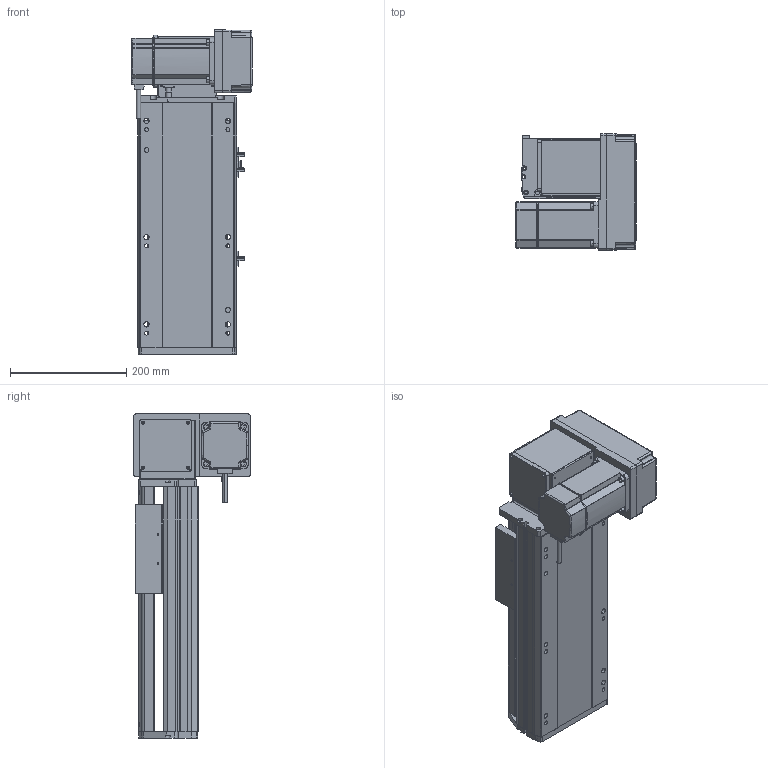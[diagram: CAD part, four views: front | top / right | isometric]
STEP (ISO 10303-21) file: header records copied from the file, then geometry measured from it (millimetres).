
FILE_DESCRIPTION (( 'STEP AP214' ), '1' );
FILE_NAME ('RTB17S-XX-150-RM-M75-C4.STEP', '2025-12-12T01:59:40', ( '' ), ( '' ), 'SwSTEP 2.0', 'SolidWorks 2018', '' );
FILE_SCHEMA (( 'AUTOMOTIVE_DESIGN' ));
Length unit declared in the file: millimetre
Products named in the file (15): EE672^RTB17S-XX-XX-RM-M75-C4; RTB17S-賑釱^RTB17S-XX-XX-RM-M75-C4; 750W萇儂^RTB17S-XX-XX-RM-M75-C4; RTB17S-L-004-賑釱^RTB17S-賑釱_RTB17S-XX-XX-RM-M75-C4; RTB22S-GY-008-M75--萇儂啣^RTB17S-RM-々湍釱蚾饜-750W_RTB17S-XX-XX-RM-M75-C4; RTB17S-RM-々湍釱蚾饜-750W^RTB17S-XX-XX-RM-M75-C4; RTH13-BL-012覜茼え俋离^RTB17S-賑釱_RTB17S-XX-XX-RM-M75-C4; RTB17-R-011菁釱^RTB17S-XX-XX-RM-M75-C4; RTB17S-L-001-耜醱啣^RTB17S-XX-XX-RM-M75-C4; RTB17S-L-014-T20-P75--々湍釱^RTB17S-RM-々湍釱蚾饜-750W_RTB17S-XX-XX-RM-M75-C4; RTB17S-L-007奻裔^RTB17S-XX-XX-RM-M75-C4; RTB22S-GY-018P^RTB17S-RM-々湍釱蚾饜-750W_RTB17S-XX-XX-RM-M75-C4; RTB22S-GY-005P^RTB17S-RM-々湍釱蚾饜-750W_RTB17S-XX-XX-RM-M75-C4; RTB17S-XX-150-RM-M75-C4; RTB22S-GY-017P^RTB17S-RM-々湍釱蚾饜-750W_RTB17S-XX-XX-RM-M75-C4
Assembly tree (17 placements, depth 3):
  RTB17S-XX-150-RM-M75-C4
    RTB17-R-011菁釱^RTB17S-XX-XX-RM-M75-C4
    EE672^RTB17S-XX-XX-RM-M75-C4  x3
    RTB17S-L-001-耜醱啣^RTB17S-XX-XX-RM-M75-C4
    RTB17S-賑釱^RTB17S-XX-XX-RM-M75-C4
      RTB17S-L-004-賑釱^RTB17S-賑釱_RTB17S-XX-XX-RM-M75-C4
      RTH13-BL-012覜茼え俋离^RTB17S-賑釱_RTB17S-XX-XX-RM-M75-C4
    RTB17S-L-007奻裔^RTB17S-XX-XX-RM-M75-C4
    750W萇儂^RTB17S-XX-XX-RM-M75-C4
    RTB17S-RM-々湍釱蚾饜-750W^RTB17S-XX-XX-RM-M75-C4
      RTB17S-L-014-T20-P75--々湍釱^RTB17S-RM-々湍釱蚾饜-750W_RTB17S-XX-XX-RM-M75-C4
      RTB22S-GY-005P^RTB17S-RM-々湍釱蚾饜-750W_RTB17S-XX-XX-RM-M75-C4
      RTB22S-GY-017P^RTB17S-RM-々湍釱蚾饜-750W_RTB17S-XX-XX-RM-M75-C4  x2
      RTB22S-GY-008-M75--萇儂啣^RTB17S-RM-々湍釱蚾饜-750W_RTB17S-XX-XX-RM-M75-C4
      RTB22S-GY-018P^RTB17S-RM-々湍釱蚾饜-750W_RTB17S-XX-XX-RM-M75-C4
Bounding box: 207.4 x 200 x 557.5 mm (x, y, z)
Volume: 6887654.1 mm3; surface area: 1026839.2 mm2
Topology: 17 solids, 17 shells, 2025 faces, 5566 edges, 3590 vertices
Faces by surface type: plane 962, cylinder 647, bspline 294, cone 110, sphere 8, torus 4
Entity records: 55030 total; most frequent: CARTESIAN_POINT 16030, ORIENTED_EDGE 7976, DIRECTION 7502, EDGE_CURVE 3988, AXIS2_PLACEMENT_3D 2610, VERTEX_POINT 2594, VECTOR 2282, LINE 2282
